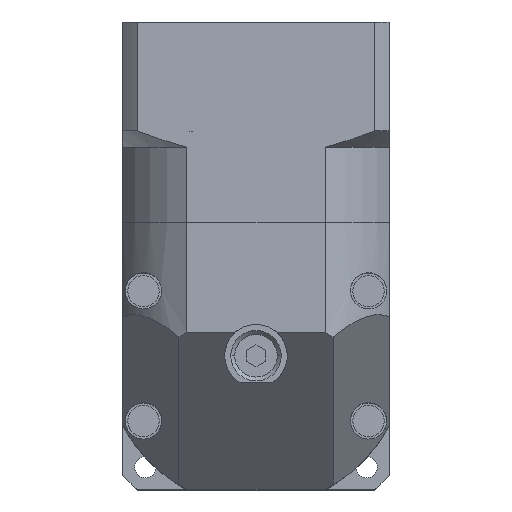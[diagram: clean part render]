
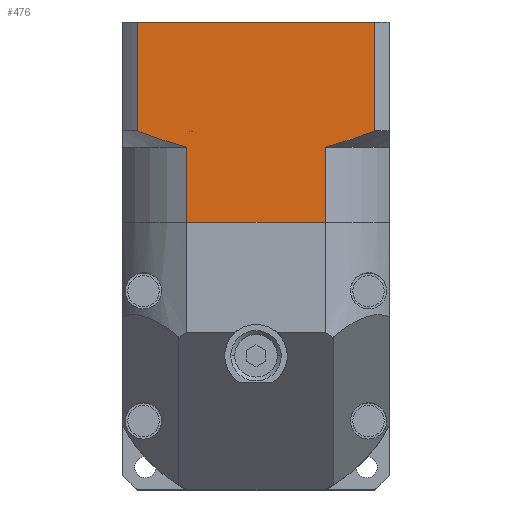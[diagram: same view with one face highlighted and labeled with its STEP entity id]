
A CAD part, top view. The second image highlights one B-rep face of the part: STEP entity #476.
In plain terms, the highlighted planar face has unit normal (0, 0, 1) as drawn and (0, -1, 0) by its records, which use the part's own axes.
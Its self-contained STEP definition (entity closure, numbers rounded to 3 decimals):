
#172 = VERTEX_POINT ( 'NONE', #414 ) ;
#211 = VECTOR ( 'NONE', #8757, 1000. ) ;
#312 = EDGE_CURVE ( 'NONE', #172, #2129, #2877, .T. ) ;
#414 = CARTESIAN_POINT ( 'NONE',  ( -11.059, -21.3, 12. ) ) ;
#439 = CARTESIAN_POINT ( 'NONE',  ( 18.936, -21.3, 32. ) ) ;
#476 = ADVANCED_FACE ( 'NONE', ( #8570 ), #8730, .F. ) ;
#571 = CARTESIAN_POINT ( 'NONE',  ( -13.736, -21.3, 12.712 ) ) ;
#647 = DIRECTION ( 'NONE',  ( -1., 0., 0. ) ) ;
#895 = VERTEX_POINT ( 'NONE', #2143 ) ;
#908 = EDGE_CURVE ( 'NONE', #4189, #7006, #1123, .T. ) ;
#1123 = LINE ( 'NONE', #439, #5997 ) ;
#1310 = VECTOR ( 'NONE', #10229, 1000. ) ;
#1432 = ORIENTED_EDGE ( 'NONE', *, *, #11122, .F. ) ;
#1709 = LINE ( 'NONE', #6123, #2568 ) ;
#1862 = ORIENTED_EDGE ( 'NONE', *, *, #4506, .T. ) ;
#2075 = CARTESIAN_POINT ( 'NONE',  ( 11.059, -21.3, 12. ) ) ;
#2129 = VERTEX_POINT ( 'NONE', #3212 ) ;
#2143 = CARTESIAN_POINT ( 'NONE',  ( 11.059, -21.3, 0. ) ) ;
#2179 = LINE ( 'NONE', #4734, #11046 ) ;
#2270 = CARTESIAN_POINT ( 'NONE',  ( -18.936, -21.3, 14.598 ) ) ;
#2568 = VECTOR ( 'NONE', #3472, 1000. ) ;
#2877 = B_SPLINE_CURVE_WITH_KNOTS ( 'NONE', 3,
 ( #5033, #571, #9353, #2270 ),
 .UNSPECIFIED., .F., .F.,
 ( 4, 4 ),
 ( 0., 0.008 ),
 .UNSPECIFIED. ) ;
#3212 = CARTESIAN_POINT ( 'NONE',  ( -18.936, -21.3, 14.598 ) ) ;
#3283 = CARTESIAN_POINT ( 'NONE',  ( -18.936, -21.3, 32. ) ) ;
#3296 = LINE ( 'NONE', #9736, #211 ) ;
#3307 = CARTESIAN_POINT ( 'NONE',  ( 18.936, -21.3, 14.598 ) ) ;
#3350 = ORIENTED_EDGE ( 'NONE', *, *, #4363, .F. ) ;
#3472 = DIRECTION ( 'NONE',  ( 1., 0., 0. ) ) ;
#3843 = CARTESIAN_POINT ( 'NONE',  ( -18.936, -21.3, 32. ) ) ;
#4041 = EDGE_CURVE ( 'NONE', #6040, #172, #2179, .T. ) ;
#4189 = VERTEX_POINT ( 'NONE', #5926 ) ;
#4363 = EDGE_CURVE ( 'NONE', #2129, #6697, #9097, .T. ) ;
#4506 = EDGE_CURVE ( 'NONE', #6040, #895, #7986, .T. ) ;
#4726 = CARTESIAN_POINT ( 'NONE',  ( 13.736, -21.3, 12.712 ) ) ;
#4734 = CARTESIAN_POINT ( 'NONE',  ( -11.059, -21.3, 32. ) ) ;
#4745 = DIRECTION ( 'NONE',  ( 0., 0., 1. ) ) ;
#4789 = DIRECTION ( 'NONE',  ( 0., 0., -1. ) ) ;
#4857 = CARTESIAN_POINT ( 'NONE',  ( 0., -21.3, 0. ) ) ;
#5033 = CARTESIAN_POINT ( 'NONE',  ( -11.059, -21.3, 12. ) ) ;
#5221 = VERTEX_POINT ( 'NONE', #2075 ) ;
#5297 = EDGE_CURVE ( 'NONE', #6697, #4189, #1709, .T. ) ;
#5537 = DIRECTION ( 'NONE',  ( 0., 0., 1. ) ) ;
#5605 = CARTESIAN_POINT ( 'NONE',  ( 18.936, -21.3, 14.598 ) ) ;
#5635 = VECTOR ( 'NONE', #4745, 1000. ) ;
#5926 = CARTESIAN_POINT ( 'NONE',  ( 18.936, -21.3, 32. ) ) ;
#5997 = VECTOR ( 'NONE', #4789, 1000. ) ;
#6017 = DIRECTION ( 'NONE',  ( 0., 1., 0. ) ) ;
#6040 = VERTEX_POINT ( 'NONE', #6474 ) ;
#6123 = CARTESIAN_POINT ( 'NONE',  ( -18.936, -21.3, 32. ) ) ;
#6431 = CARTESIAN_POINT ( 'NONE',  ( 11.059, -21.3, 12. ) ) ;
#6474 = CARTESIAN_POINT ( 'NONE',  ( -11.059, -21.3, 0. ) ) ;
#6548 = CARTESIAN_POINT ( 'NONE',  ( 16.352, -21.3, 13.607 ) ) ;
#6697 = VERTEX_POINT ( 'NONE', #9391 ) ;
#7006 = VERTEX_POINT ( 'NONE', #3307 ) ;
#7529 = EDGE_LOOP ( 'NONE', ( #9991, #1862, #1432, #8708, #10299, #9888, #3350, #8924 ) ) ;
#7566 = B_SPLINE_CURVE_WITH_KNOTS ( 'NONE', 3,
 ( #5605, #6548, #4726, #6431 ),
 .UNSPECIFIED., .F., .F.,
 ( 4, 4 ),
 ( 0., 0.008 ),
 .UNSPECIFIED. ) ;
#7986 = LINE ( 'NONE', #4857, #1310 ) ;
#8570 = FACE_OUTER_BOUND ( 'NONE', #7529, .T. ) ;
#8708 = ORIENTED_EDGE ( 'NONE', *, *, #10744, .F. ) ;
#8730 = PLANE ( 'NONE',  #9441 ) ;
#8757 = DIRECTION ( 'NONE',  ( 0., 0., -1. ) ) ;
#8924 = ORIENTED_EDGE ( 'NONE', *, *, #312, .F. ) ;
#9097 = LINE ( 'NONE', #3843, #5635 ) ;
#9353 = CARTESIAN_POINT ( 'NONE',  ( -16.352, -21.3, 13.607 ) ) ;
#9391 = CARTESIAN_POINT ( 'NONE',  ( -18.936, -21.3, 32. ) ) ;
#9441 = AXIS2_PLACEMENT_3D ( 'NONE', #3283, #6017, #647 ) ;
#9736 = CARTESIAN_POINT ( 'NONE',  ( 11.059, -21.3, 0. ) ) ;
#9888 = ORIENTED_EDGE ( 'NONE', *, *, #5297, .F. ) ;
#9991 = ORIENTED_EDGE ( 'NONE', *, *, #4041, .F. ) ;
#10229 = DIRECTION ( 'NONE',  ( 1., 0., 0. ) ) ;
#10299 = ORIENTED_EDGE ( 'NONE', *, *, #908, .F. ) ;
#10744 = EDGE_CURVE ( 'NONE', #7006, #5221, #7566, .T. ) ;
#11046 = VECTOR ( 'NONE', #5537, 1000. ) ;
#11122 = EDGE_CURVE ( 'NONE', #5221, #895, #3296, .T. ) ;
